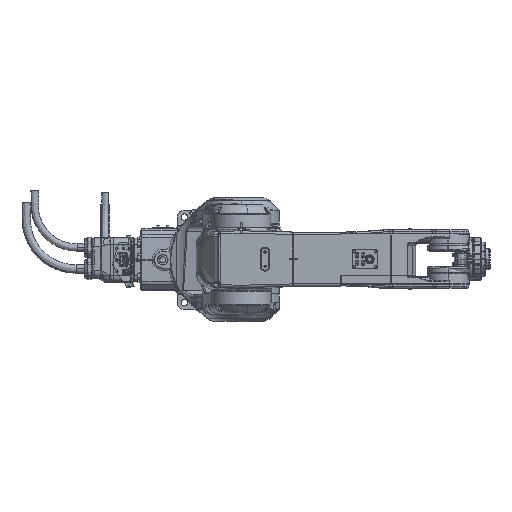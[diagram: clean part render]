
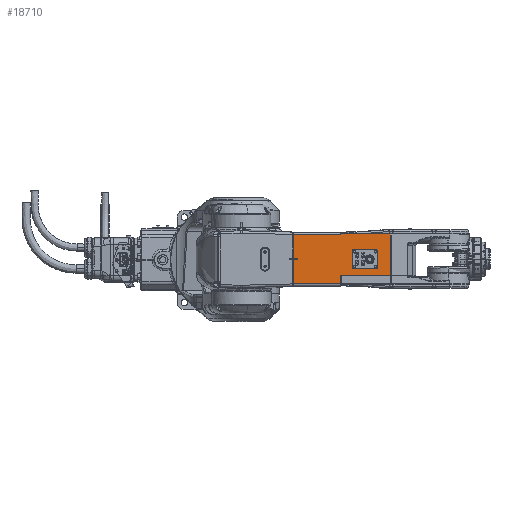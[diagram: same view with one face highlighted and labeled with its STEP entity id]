
A CAD part, top view. The second image highlights one B-rep face of the part: STEP entity #18710.
In plain terms, the highlighted planar face has unit normal (0, 0, 1).
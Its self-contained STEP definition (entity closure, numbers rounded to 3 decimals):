
#3915=LINE('',#185870,#6702);
#3916=LINE('',#185872,#6703);
#3919=LINE('',#185878,#6706);
#3921=LINE('',#185888,#6708);
#3923=LINE('',#185891,#6710);
#3926=LINE('',#185899,#6713);
#3929=LINE('',#185907,#6716);
#3932=LINE('',#185915,#6719);
#3935=LINE('',#185923,#6722);
#3967=LINE('',#186154,#6754);
#3980=LINE('',#186389,#6767);
#3983=LINE('',#186398,#6770);
#3993=LINE('',#186436,#6780);
#3994=LINE('',#186438,#6781);
#3995=LINE('',#186439,#6782);
#6702=VECTOR('',#89071,1.);
#6703=VECTOR('',#89074,1.);
#6706=VECTOR('',#89081,1.);
#6708=VECTOR('',#89091,1.);
#6710=VECTOR('',#89095,1.);
#6713=VECTOR('',#89104,1.);
#6716=VECTOR('',#89113,1.);
#6719=VECTOR('',#89122,1.);
#6722=VECTOR('',#89131,1.);
#6754=VECTOR('',#89301,1.);
#6767=VECTOR('',#89376,1.);
#6770=VECTOR('',#89389,1.);
#6780=VECTOR('',#89429,1.);
#6781=VECTOR('',#89432,1.);
#6782=VECTOR('',#89433,1.);
#9526=CIRCLE('',#75408,1.5);
#9948=CIRCLE('',#76312,1.5);
#9949=CIRCLE('',#76315,5.);
#9950=CIRCLE('',#76318,5.);
#9951=CIRCLE('',#76321,5.);
#9952=CIRCLE('',#76324,5.);
#13847=FACE_BOUND('',#28090,.T.);
#13848=FACE_BOUND('',#28091,.T.);
#14991=PLANE('',#76444);
#18710=ADVANCED_FACE('',(#13847,#13848),#14991,.T.);
#28090=EDGE_LOOP('',(#44915,#44916,#44917,#44918,#44919,#44920,#44921,#44922));
#28091=EDGE_LOOP('',(#44923,#44924,#44925,#44926,#44927,#44928,#44929,#44930,
#44931,#44932,#44933,#44934,#44935));
#44915=ORIENTED_EDGE('',*,*,#64882,.T.);
#44916=ORIENTED_EDGE('',*,*,#64883,.T.);
#44917=ORIENTED_EDGE('',*,*,#64870,.T.);
#44918=ORIENTED_EDGE('',*,*,#64872,.T.);
#44919=ORIENTED_EDGE('',*,*,#64874,.T.);
#44920=ORIENTED_EDGE('',*,*,#64876,.T.);
#44921=ORIENTED_EDGE('',*,*,#64878,.T.);
#44922=ORIENTED_EDGE('',*,*,#64880,.T.);
#44923=ORIENTED_EDGE('',*,*,#64866,.T.);
#44924=ORIENTED_EDGE('',*,*,#63488,.T.);
#44925=ORIENTED_EDGE('',*,*,#64867,.T.);
#44926=ORIENTED_EDGE('',*,*,#64854,.T.);
#44927=ORIENTED_EDGE('',*,*,#64855,.T.);
#44928=ORIENTED_EDGE('',*,*,#65013,.T.);
#44929=ORIENTED_EDGE('',*,*,#65014,.T.);
#44930=ORIENTED_EDGE('',*,*,#64958,.T.);
#44931=ORIENTED_EDGE('',*,*,#64991,.T.);
#44932=ORIENTED_EDGE('',*,*,#65015,.F.);
#44933=ORIENTED_EDGE('',*,*,#64995,.T.);
#44934=ORIENTED_EDGE('',*,*,#64859,.T.);
#44935=ORIENTED_EDGE('',*,*,#64864,.T.);
#54621=VERTEX_POINT('',#177257);
#54622=VERTEX_POINT('',#177259);
#55376=VERTEX_POINT('',#184919);
#55414=VERTEX_POINT('',#185831);
#55415=VERTEX_POINT('',#185865);
#55417=VERTEX_POINT('',#185869);
#55419=VERTEX_POINT('',#185879);
#55422=VERTEX_POINT('',#185887);
#55423=VERTEX_POINT('',#185896);
#55424=VERTEX_POINT('',#185898);
#55425=VERTEX_POINT('',#185902);
#55426=VERTEX_POINT('',#185906);
#55427=VERTEX_POINT('',#185910);
#55428=VERTEX_POINT('',#185914);
#55429=VERTEX_POINT('',#185918);
#55430=VERTEX_POINT('',#185922);
#55470=VERTEX_POINT('',#186140);
#55472=VERTEX_POINT('',#186152);
#55487=VERTEX_POINT('',#186388);
#55489=VERTEX_POINT('',#186399);
#55497=VERTEX_POINT('',#186435);
#63488=EDGE_CURVE('',#54622,#54621,#9526,.T.);
#64854=EDGE_CURVE('',#55415,#55417,#3915,.T.);
#64855=EDGE_CURVE('',#55417,#55414,#3916,.T.);
#64859=EDGE_CURVE('',#55419,#55376,#3919,.T.);
#64864=EDGE_CURVE('',#55376,#55422,#3921,.T.);
#64866=EDGE_CURVE('',#55422,#54622,#3923,.T.);
#64867=EDGE_CURVE('',#54621,#55415,#9948,.T.);
#64870=EDGE_CURVE('',#55423,#55424,#3926,.T.);
#64872=EDGE_CURVE('',#55424,#55425,#9949,.T.);
#64874=EDGE_CURVE('',#55425,#55426,#3929,.T.);
#64876=EDGE_CURVE('',#55426,#55427,#9950,.T.);
#64878=EDGE_CURVE('',#55427,#55428,#3932,.T.);
#64880=EDGE_CURVE('',#55428,#55429,#9951,.T.);
#64882=EDGE_CURVE('',#55429,#55430,#3935,.T.);
#64883=EDGE_CURVE('',#55430,#55423,#9952,.T.);
#64958=EDGE_CURVE('',#55472,#55470,#3967,.T.);
#64991=EDGE_CURVE('',#55470,#55487,#3980,.T.);
#64995=EDGE_CURVE('',#55489,#55419,#3983,.T.);
#65013=EDGE_CURVE('',#55414,#55497,#3993,.T.);
#65014=EDGE_CURVE('',#55497,#55472,#3994,.T.);
#65015=EDGE_CURVE('',#55489,#55487,#3995,.T.);
#75408=AXIS2_PLACEMENT_3D('',#177258,#86744,#86745);
#76312=AXIS2_PLACEMENT_3D('',#185893,#89098,#89099);
#76315=AXIS2_PLACEMENT_3D('',#185903,#89108,#89109);
#76318=AXIS2_PLACEMENT_3D('',#185911,#89117,#89118);
#76321=AXIS2_PLACEMENT_3D('',#185919,#89126,#89127);
#76324=AXIS2_PLACEMENT_3D('',#185925,#89134,#89135);
#76444=AXIS2_PLACEMENT_3D('',#186440,#89434,#89435);
#86744=DIRECTION('',(0.,0.,-1.));
#86745=DIRECTION('',(1.,0.,0.));
#89071=DIRECTION('',(-1.,0.,0.));
#89074=DIRECTION('',(0.,-1.,0.));
#89081=DIRECTION('',(-1.,0.,0.));
#89091=DIRECTION('',(0.,-1.,0.));
#89095=DIRECTION('',(1.,0.,0.));
#89098=DIRECTION('',(0.,0.,-1.));
#89099=DIRECTION('',(1.,0.,0.));
#89104=DIRECTION('',(1.,0.,0.));
#89108=DIRECTION('',(0.,0.,-1.));
#89109=DIRECTION('',(-1.,0.,0.));
#89113=DIRECTION('',(0.,-1.,0.));
#89117=DIRECTION('',(0.,0.,-1.));
#89118=DIRECTION('',(-1.,0.,0.));
#89122=DIRECTION('',(-1.,0.,0.));
#89126=DIRECTION('',(0.,0.,-1.));
#89127=DIRECTION('',(-1.,0.,0.));
#89131=DIRECTION('',(0.,1.,0.));
#89134=DIRECTION('',(0.,0.,-1.));
#89135=DIRECTION('',(-1.,0.,0.));
#89301=DIRECTION('',(1.,0.,0.));
#89376=DIRECTION('',(0.,1.,0.));
#89389=DIRECTION('',(0.,-1.,0.));
#89429=DIRECTION('',(1.,0.,0.));
#89432=DIRECTION('',(0.,1.,0.));
#89433=DIRECTION('',(1.,0.,0.));
#89434=DIRECTION('',(0.,0.,1.));
#89435=DIRECTION('',(-1.,0.,0.));
#177257=CARTESIAN_POINT('',(-317.2,0.,53.));
#177258=CARTESIAN_POINT('',(-318.7,0.,53.));
#177259=CARTESIAN_POINT('',(-318.7,1.5,53.));
#184919=CARTESIAN_POINT('',(-325.5,52.,53.));
#185831=CARTESIAN_POINT('',(-325.5,-52.,53.));
#185865=CARTESIAN_POINT('',(-318.7,-1.5,53.));
#185869=CARTESIAN_POINT('',(-325.5,-1.5,53.));
#185870=CARTESIAN_POINT('',(-225.5,-1.5,53.));
#185872=CARTESIAN_POINT('',(-325.5,-57.,53.));
#185878=CARTESIAN_POINT('',(-225.5,52.,53.));
#185879=CARTESIAN_POINT('',(-225.5,52.,53.));
#185887=CARTESIAN_POINT('',(-325.5,1.5,53.));
#185888=CARTESIAN_POINT('',(-325.5,-57.,53.));
#185891=CARTESIAN_POINT('',(-225.5,1.5,53.));
#185893=CARTESIAN_POINT('',(-318.7,0.,53.));
#185896=CARTESIAN_POINT('',(-197.,20.5,53.));
#185898=CARTESIAN_POINT('',(-153.,20.5,53.));
#185899=CARTESIAN_POINT('',(-225.5,20.5,53.));
#185902=CARTESIAN_POINT('',(-148.,15.5,53.));
#185903=CARTESIAN_POINT('',(-153.,15.5,53.));
#185906=CARTESIAN_POINT('',(-148.,-15.5,53.));
#185907=CARTESIAN_POINT('',(-148.,-57.,53.));
#185910=CARTESIAN_POINT('',(-153.,-20.5,53.));
#185911=CARTESIAN_POINT('',(-153.,-15.5,53.));
#185914=CARTESIAN_POINT('',(-197.,-20.5,53.));
#185915=CARTESIAN_POINT('',(-225.5,-20.5,53.));
#185918=CARTESIAN_POINT('',(-202.,-15.5,53.));
#185919=CARTESIAN_POINT('',(-197.,-15.5,53.));
#185922=CARTESIAN_POINT('',(-202.,15.5,53.));
#185923=CARTESIAN_POINT('',(-202.,-57.,53.));
#185925=CARTESIAN_POINT('',(-197.,15.5,53.));
#186140=CARTESIAN_POINT('',(-121.847,-34.7,53.));
#186152=CARTESIAN_POINT('',(-225.5,-34.7,53.));
#186154=CARTESIAN_POINT('',(-225.5,-34.7,53.));
#186388=CARTESIAN_POINT('',(-121.847,53.,53.));
#186389=CARTESIAN_POINT('',(-121.847,-57.,53.));
#186398=CARTESIAN_POINT('',(-225.5,-57.,53.));
#186399=CARTESIAN_POINT('',(-225.5,53.,53.));
#186435=CARTESIAN_POINT('',(-225.5,-52.,53.));
#186436=CARTESIAN_POINT('',(-225.5,-52.,53.));
#186438=CARTESIAN_POINT('',(-225.5,0.,53.));
#186439=CARTESIAN_POINT('',(200.,53.,53.));
#186440=CARTESIAN_POINT('',(-225.5,-57.,53.));
